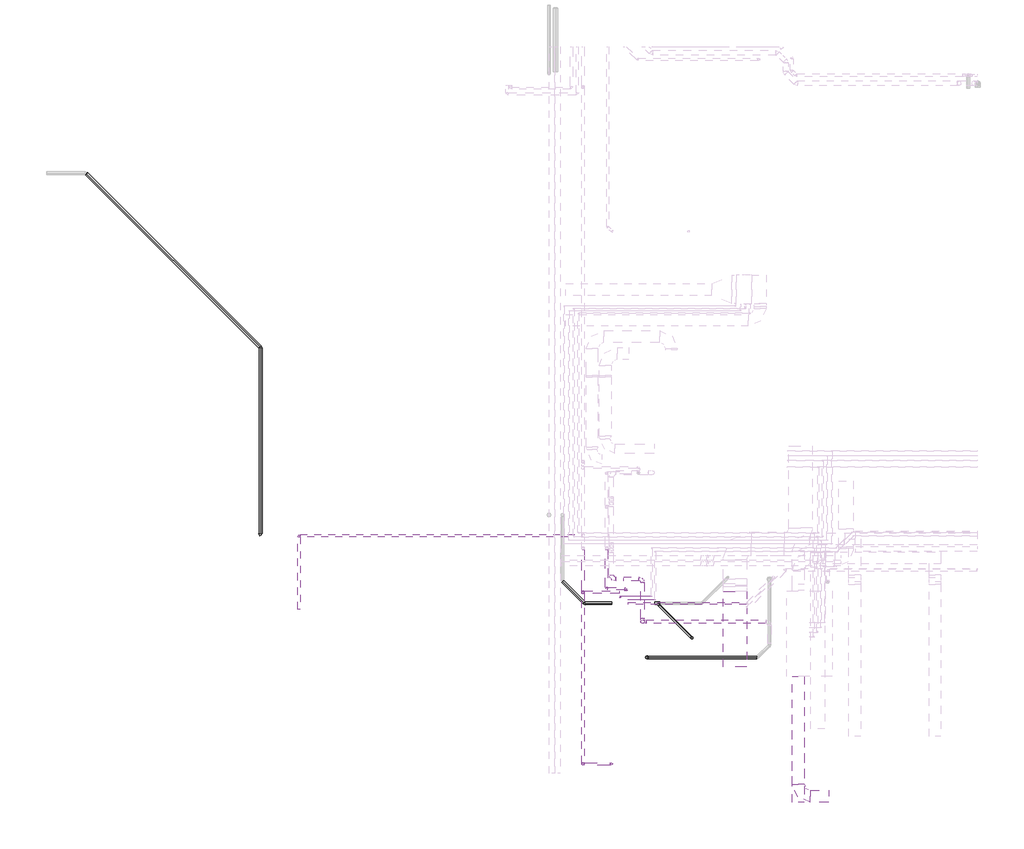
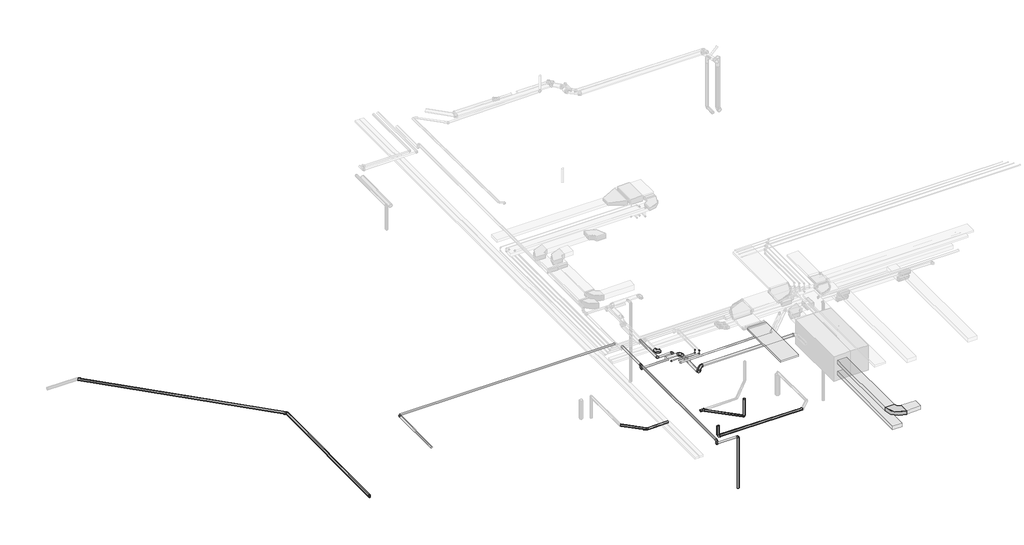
# One storey, part 1 of 10: 26 pipe segments, 19 pipe fittings, 8 duct segments, 5 duct fittings, 1 cable carrier segment.
"""IFC4 building model written with IfcOpenShell, lengths in millimetres."""

from ifc_helpers import new_model, si_unit, point, frame, frame_2d, origin, place, context, project, spatial, polyline, circle_curve, trimmed, segment, composite_curve, outline, extrude, transform, mapped, element, save
from components import m_codo_rectangular_radio_apt_1_w_8ec2a39b, m_codo_redondo_ext_1_d_74319309, m_codo_redondo_ext_1_d_fe658834, pipe_fitting_688cd524, pipe_fitting_67d104e7, pipe_fitting_3454c7e7, pipe_fitting_22462b75, pipe_fitting_87aeffad, pipe_fitting_2d09eb79, pipe_fitting_8d6f82bb, pipe_fitting_37d2b20f, pipe_fitting_c06ac706

model = new_model("IFC4")

# Units and contexts
model_context = context("Model", 3, world=origin())
ifc_project = project(units=[si_unit("LENGTHUNIT", "METRE", prefix="MILLI")], contexts=[model_context])

# Site, building, storey
site = spatial("IfcSite", under=ifc_project)
building = spatial("IfcBuilding", under=site)
storey = spatial("IfcBuildingStorey", under=building, Name="Nivell 00 P00_PB", Elevation=6330.0)

# Cable carrier segment
placement = place(None, origin())
element("IfcCableCarrierSegment", 1, ObjectType="Gasos", at=placement, inside=storey, context=model_context, shape_type="SweptSolid", body=[
    extrude(outline(polyline([(12319.6653746, -20135.8502487), (11319.6653746, -20135.8502487), (11319.6653746, -16967.982283), (12319.6653746, -16967.982283), (12319.6653746, -20135.8502487)])), frame((0.0, 0.0, 10710.0), z_axis=(0.0, 0.0, 1.0), x_axis=(1.0, 0.0, 0.0)), (0.0, 0.0, 1.0), 100.0),
])

# Duct fittings
m_codo_rectangular_radio_apt_1_w_shape = m_codo_rectangular_radio_apt_1_w_8ec2a39b(model_context)
element("IfcDuctFitting", 2, ObjectType="M_Codo rectangular - Radio : EXT_1 W", at=placement, inside=storey, context=model_context, shape_type="MappedRepresentation", body=[
    mapped(m_codo_rectangular_radio_apt_1_w_shape, transform((14473.0832095, -25567.7770846, 9971.4545455), x_axis=(0.0, -1.0, 0.0), y_axis=(1.0, 0.0, 0.0), z_axis=(0.0, 0.0, 1.0))),
])
m_codo_redondo_ext_1_d_shape = m_codo_redondo_ext_1_d_74319309(model_context)
element("IfcDuctFitting", 3, ObjectType="M_Codo redondo : EXT_1 D", at=placement, inside=storey, context=model_context, shape_type="MappedRepresentation", body=[
    mapped(m_codo_redondo_ext_1_d_shape, transform((6627.2855995, -16447.012168, 10742.5), x_axis=(0.0, -1.0, 0.0), y_axis=(1.0, 0.0, 0.0), z_axis=(0.0, 0.0, 1.0))),
])
m_codo_redondo_ext_1_d_2_shape = m_codo_redondo_ext_1_d_fe658834(model_context)
element("IfcDuctFitting", 4, ObjectType="M_Codo redondo : EXT_1 D", at=placement, inside=storey, context=model_context, shape_type="MappedRepresentation", body=[
    mapped(m_codo_redondo_ext_1_d_2_shape, transform((7937.2945854, -16447.012168, 10185.0), x_axis=(0.0, 1.0, 0.0), y_axis=(-1.0, 0.0, 0.0), z_axis=(0.0, 0.0, 1.0))),
])
element("IfcDuctFitting", 5, ObjectType="M_Codo redondo : EXT_1 D", at=placement, inside=storey, context=model_context, shape_type="MappedRepresentation", body=[
    mapped(m_codo_redondo_ext_1_d_2_shape, transform((7937.2945854, -18247.0122124, 10185.0), x_axis=(0.0, -1.0, 0.0), y_axis=(0.0, 0.0, 1.0), z_axis=(-1.0, 0.0, 0.0))),
])
element("IfcDuctFitting", 6, ObjectType="M_Codo redondo : EXT_1 D", at=placement, inside=storey, context=model_context, shape_type="MappedRepresentation", body=[
    mapped(m_codo_redondo_ext_1_d_2_shape, transform((7937.2945854, -18247.0122124, 10535.0), x_axis=(0.0, 0.0, 1.0), y_axis=(0.9999999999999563, 2.95948937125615e-07, 0.0), z_axis=(-2.95948937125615e-07, 0.9999999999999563, 0.0))),
])

# Duct segments
element("IfcDuctSegment", 7, ObjectType="EXT_Acer Galvanitzat - Rígid", at=placement, inside=storey, context=model_context, shape_type="SweptSolid", body=[
    extrude(outline(composite_curve([segment(trimmed(circle_curve(frame_2d((-16447.012168, 10742.5)), 87.5), [point((-16534.512168, 10742.5))], [point((-16447.012168, 10830.0))], False, "CARTESIAN"), True, "CONTINUOUS"), segment(trimmed(circle_curve(frame_2d((-16447.012168, 10742.5)), 87.5), [point((-16447.012168, 10830.0))], [point((-16359.512168, 10742.5))], False, "CARTESIAN"), True, "CONTINUOUS"), segment(trimmed(circle_curve(frame_2d((-16447.012168, 10742.5)), 87.5), [point((-16359.512168, 10742.5))], [point((-16447.012168, 10655.0))], False, "CARTESIAN"), True, "CONTINUOUS"), segment(trimmed(circle_curve(frame_2d((-16447.012168, 10742.5)), 87.5), [point((-16447.012168, 10655.0))], [point((-16534.512168, 10742.5))], False, "CARTESIAN"), True, "CONTINUOUS")], self_intersect=False)), frame((6802.2855995, 0.0, 0.0), z_axis=(1.0, 0.0, 0.0), x_axis=(0.0, 1.0, 0.0)), (0.0, 0.0, 1.0), 14.2559856),
])
element("IfcDuctSegment", 8, ObjectType="EXT_Fibra de vidre rígida", at=placement, inside=storey, context=model_context, shape_type="SweptSolid", body=[
    extrude(outline(polyline([(14973.0832095, -25817.7770846), (14973.0832095, -25317.7770846), (15753.9089403, -25317.7770846), (15753.9089403, -25817.7770846), (14973.0832095, -25817.7770846)])), frame((0.0, 0.0, 9871.4545455), z_axis=(0.0, 0.0, 1.0), x_axis=(1.0, 0.0, 0.0)), (0.0, 0.0, 1.0), 200.0),
])
element("IfcDuctSegment", 9, ObjectType="EXT_Fibra de vidre rígida", at=placement, inside=storey, context=model_context, shape_type="SweptSolid", body=[
    extrude(outline(polyline([(14723.0832095, -25067.7770846), (14223.0832095, -25067.7770846), (14223.0832095, -20547.2682253), (14723.0832095, -20547.2682253), (14723.0832095, -25067.7770846)])), frame((0.0, 0.0, 9871.4545455), z_axis=(0.0, 0.0, 1.0), x_axis=(1.0, 0.0, 0.0)), (0.0, 0.0, 1.0), 200.0),
])
element("IfcDuctSegment", 10, ObjectType="APT_Fibra de vidre rígida", at=placement, inside=storey, context=model_context, shape_type="SweptSolid", body=[
    extrude(outline(polyline([(14223.0832095, -20547.2682253), (14723.0832095, -20547.2682253), (14723.0832095, -25817.7770846), (14223.0832095, -25817.7770846), (14223.0832095, -20547.2682253)])), frame((0.0, 0.0, 9220.5454545), z_axis=(0.0, 0.0, 1.0), x_axis=(1.0, 0.0, 0.0)), (0.0, 0.0, 1.0), 200.0),
])
element("IfcDuctSegment", 11, ObjectType="EXT_Acer Galvanitzat - Rígid", at=placement, inside=storey, context=model_context, shape_type="SweptSolid", body=[
    extrude(outline(composite_curve([segment(trimmed(circle_curve(frame_2d((-16447.012168, 10185.0)), 75.0), [point((-16522.012168, 10185.0))], [point((-16447.012168, 10260.0))], False, "CARTESIAN"), True, "CONTINUOUS"), segment(trimmed(circle_curve(frame_2d((-16447.012168, 10185.0)), 75.0), [point((-16447.012168, 10260.0))], [point((-16372.012168, 10185.0))], False, "CARTESIAN"), True, "CONTINUOUS"), segment(trimmed(circle_curve(frame_2d((-16447.012168, 10185.0)), 75.0), [point((-16372.012168, 10185.0))], [point((-16447.012168, 10110.0))], False, "CARTESIAN"), True, "CONTINUOUS"), segment(trimmed(circle_curve(frame_2d((-16447.012168, 10185.0)), 75.0), [point((-16447.012168, 10110.0))], [point((-16522.012168, 10185.0))], False, "CARTESIAN"), True, "CONTINUOUS")], self_intersect=False)), frame((7137.2945854, 0.0, 0.0), z_axis=(1.0, 0.0, 0.0), x_axis=(0.0, 1.0, 0.0)), (0.0, 0.0, 1.0), 650.0),
])
element("IfcDuctSegment", 12, ObjectType="EXT_Acer Galvanitzat - Rígid", at=placement, inside=storey, context=model_context, shape_type="SweptSolid", body=[
    extrude(outline(composite_curve([segment(trimmed(circle_curve(frame_2d((10185.0, 7937.2945854)), 75.0), [point((10185.0, 7862.2945854))], [point((10110.0, 7937.2945854))], False, "CARTESIAN"), True, "CONTINUOUS"), segment(trimmed(circle_curve(frame_2d((10185.0, 7937.2945854)), 75.0), [point((10110.0, 7937.2945854))], [point((10185.0, 8012.2945854))], False, "CARTESIAN"), True, "CONTINUOUS"), segment(trimmed(circle_curve(frame_2d((10185.0, 7937.2945854)), 75.0), [point((10185.0, 8012.2945854))], [point((10260.0, 7937.2945854))], False, "CARTESIAN"), True, "CONTINUOUS"), segment(trimmed(circle_curve(frame_2d((10185.0, 7937.2945854)), 75.0), [point((10260.0, 7937.2945854))], [point((10185.0, 7862.2945854))], False, "CARTESIAN"), True, "CONTINUOUS")], self_intersect=False)), frame((0.0, -18097.0122124, 0.0), z_axis=(0.0, 1.0, 0.0), x_axis=(0.0, 0.0, 1.0)), (0.0, 0.0, 1.0), 1500.0000444),
])
element("IfcDuctSegment", 13, ObjectType="EXT_Acer Galvanitzat - Rígid", at=placement, inside=storey, context=model_context, shape_type="SweptSolid", body=[
    extrude(outline(composite_curve([segment(trimmed(circle_curve(frame_2d((0.0, 75.0)), 75.0), [point((-75.0, 75.0))], [point((0.0, 150.0))], False, "CARTESIAN"), True, "CONTINUOUS"), segment(trimmed(circle_curve(frame_2d((0.0, 75.0)), 75.0), [point((0.0, 150.0))], [point((75.0, 75.0))], False, "CARTESIAN"), True, "CONTINUOUS"), segment(trimmed(circle_curve(frame_2d((0.0, 75.0)), 75.0), [point((75.0, 75.0))], [point((0.0, 0.0))], False, "CARTESIAN"), True, "CONTINUOUS"), segment(trimmed(circle_curve(frame_2d((0.0, 75.0)), 75.0), [point((0.0, 0.0))], [point((-75.0, 75.0))], False, "CARTESIAN"), True, "CONTINUOUS")], self_intersect=False)), frame((8087.2945854, -18247.012168, 10460.0), z_axis=(0.9999999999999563, 2.9594893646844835e-07, 0.0), x_axis=(-2.9594893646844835e-07, 0.9999999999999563, 0.0)), (0.0, 0.0, 1.0), 5028.6431999),
])
element("IfcDuctSegment", 14, ObjectType="EXT_Acer Galvanitzat - Rígid", at=placement, inside=storey, context=model_context, shape_type="SweptSolid", body=[
    extrude(outline(composite_curve([segment(trimmed(circle_curve(frame_2d((7937.2945854, -18247.0122124)), 75.0), [point((7937.2945854, -18322.0122124))], [point((7862.2945854, -18247.0122124))], False, "CARTESIAN"), True, "CONTINUOUS"), segment(trimmed(circle_curve(frame_2d((7937.2945854, -18247.0122124)), 75.0), [point((7862.2945854, -18247.0122124))], [point((7937.2945854, -18172.0122124))], False, "CARTESIAN"), True, "CONTINUOUS"), segment(trimmed(circle_curve(frame_2d((7937.2945854, -18247.0122124)), 75.0), [point((7937.2945854, -18172.0122124))], [point((8012.2945854, -18247.0122124))], False, "CARTESIAN"), True, "CONTINUOUS"), segment(trimmed(circle_curve(frame_2d((7937.2945854, -18247.0122124)), 75.0), [point((8012.2945854, -18247.0122124))], [point((7937.2945854, -18322.0122124))], False, "CARTESIAN"), True, "CONTINUOUS")], self_intersect=False)), frame((0.0, 0.0, 10335.0), z_axis=(0.0, 0.0, 1.0), x_axis=(1.0, 0.0, 0.0)), (0.0, 0.0, 1.0), 50.0),
])

# Pipe fittings
pipe_fitting_shape = pipe_fitting_688cd524(model_context)
element("IfcPipeFitting", 15, ObjectType="M_Codo - Genérico : Estándar", at=placement, inside=storey, context=model_context, shape_type="MappedRepresentation", body=[
    mapped(pipe_fitting_shape, transform((10013.181755, -18927.6612196, 7316.6831944), x_axis=(0.0, 0.0, -1.0), y_axis=(-0.7071067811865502, 0.7071067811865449, 0.0), z_axis=(0.7071067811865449, 0.7071067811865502, 0.0))),
])
pipe_fitting_2_shape = pipe_fitting_67d104e7(model_context)
element("IfcPipeFitting", 16, ObjectType="M_Codo - Genérico : Estándar", at=placement, inside=storey, context=model_context, shape_type="MappedRepresentation", body=[
    mapped(pipe_fitting_2_shape, transform((5502.7073484, -17471.0592334, 7266.7737556), x_axis=(-0.9999500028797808, 4.171003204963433e-05, -0.009999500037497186), y_axis=(-8.312861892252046e-05, -0.9999914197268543, 0.004141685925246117), z_axis=(-0.009999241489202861, 0.004142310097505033, 0.9999414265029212))),
])
pipe_fitting_3_shape = pipe_fitting_3454c7e7(model_context)
element("IfcPipeFitting", 17, ObjectType="M_Codo - Genérico : Estándar", at=placement, inside=storey, context=model_context, shape_type="MappedRepresentation", body=[
    mapped(pipe_fitting_3_shape, transform((8102.8938836, -19743.951846, 7325.0), x_axis=(-0.9999500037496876, 0.0, 0.009999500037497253), y_axis=(-0.009999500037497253, 0.0, -0.9999500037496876), z_axis=(0.0, -1.0, 0.0))),
])
pipe_fitting_4_shape = pipe_fitting_22462b75(model_context)
element("IfcPipeFitting", 18, ObjectType="M_Te - Genérica : Estándar", at=placement, inside=storey, context=model_context, shape_type="MappedRepresentation", body=[
    mapped(pipe_fitting_4_shape, transform((8553.2787609, -17467.7582255, 7296.0370483), x_axis=(0.9999500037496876, 0.0, 0.009999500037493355), y_axis=(4.141685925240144e-05, 0.999991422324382, -0.004141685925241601), z_axis=(-0.00999941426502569, 0.004141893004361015, 0.9999414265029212))),
])
pipe_fitting_5_shape = pipe_fitting_87aeffad(model_context)
element("IfcPipeFitting", 19, ObjectType="M_Codo - Genérico : Estándar", at=placement, inside=storey, context=model_context, shape_type="MappedRepresentation", body=[
    mapped(pipe_fitting_5_shape, transform((6626.3040659, -24217.4295325, 10519.2), x_axis=(1.0, 0.0, 0.0), y_axis=(0.0, 0.0, -1.0), z_axis=(0.0, 1.0, 0.0))),
])
element("IfcPipeFitting", 20, ObjectType="M_Codo - Genérico : Estándar", at=placement, inside=storey, context=model_context, shape_type="MappedRepresentation", body=[
    mapped(pipe_fitting_5_shape, transform((-6488.4202109, -14623.0018551, 10526.1436888), x_axis=(-1.0, 0.0, 0.0), y_axis=(0.0, -1.0, 0.0), z_axis=(0.0, 0.0, 1.0))),
])
element("IfcPipeFitting", 21, ObjectType="M_Codo - Genérico : Estándar", at=placement, inside=storey, context=model_context, shape_type="MappedRepresentation", body=[
    mapped(pipe_fitting_5_shape, transform((6429.6948456, -16857.399765, 10729.2), x_axis=(0.0, -1.0, 0.0), y_axis=(1.0, 0.0, 0.0), z_axis=(0.0, 0.0, 1.0))),
])
element("IfcPipeFitting", 22, ObjectType="M_Codo - Genérico : Estándar", at=placement, inside=storey, context=model_context, shape_type="MappedRepresentation", body=[
    mapped(pipe_fitting_5_shape, transform((7245.3154675, -16857.399765, 10729.2), x_axis=(0.0, 1.0, 0.0), y_axis=(-1.0, 0.0, 0.0), z_axis=(0.0, 0.0, 1.0))),
])
element("IfcPipeFitting", 23, ObjectType="M_Codo - Genérico : Estándar", at=placement, inside=storey, context=model_context, shape_type="MappedRepresentation", body=[
    mapped(pipe_fitting_5_shape, transform((5436.8741871, -17006.4845942, 10519.2), x_axis=(0.0, 0.0, -1.0), y_axis=(1.0, 0.0, 0.0), z_axis=(0.0, -1.0, 0.0))),
])
element("IfcPipeFitting", 24, ObjectType="M_Codo - Genérico : Estándar", at=placement, inside=storey, context=model_context, shape_type="MappedRepresentation", body=[
    mapped(pipe_fitting_5_shape, transform((5436.8741871, -24217.4295325, 10519.2), x_axis=(-1.0, 0.0, 0.0), y_axis=(0.0, 0.0, 1.0), z_axis=(0.0, 1.0, 0.0))),
])
element("IfcPipeFitting", 25, ObjectType="M_Codo - Genérico : Estándar", at=placement, inside=storey, context=model_context, shape_type="MappedRepresentation", body=[
    mapped(pipe_fitting_5_shape, transform((5436.8741871, -24217.4295325, 10729.2), x_axis=(0.0, 0.0, 1.0), y_axis=(0.0, 1.0, 0.0), z_axis=(-1.0, 0.0, 0.0))),
])
pipe_fitting_6_shape = pipe_fitting_2d09eb79(model_context)
element("IfcPipeFitting", 26, ObjectType="M_Te - Genérica : Estándar", at=placement, inside=storey, context=model_context, shape_type="MappedRepresentation", body=[
    mapped(pipe_fitting_6_shape, transform((5436.8741871, -17006.4845942, 10729.2), x_axis=(0.0, 1.0, 0.0), y_axis=(0.0, 0.0, 1.0), z_axis=(1.0, 0.0, 0.0))),
])
pipe_fitting_7_shape = pipe_fitting_8d6f82bb(model_context)
element("IfcPipeFitting", 27, ObjectType="M_Codo - Genérico : Estándar", at=placement, inside=storey, context=model_context, shape_type="MappedRepresentation", body=[
    mapped(pipe_fitting_7_shape, transform((-8099.3348095, -6724.4089859, 6429.5497962), x_axis=(0.0, 0.9999500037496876, 0.009999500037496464), y_axis=(-0.9999914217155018, -4.141832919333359e-05, 0.00414183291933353), z_axis=(0.004142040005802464, -0.009999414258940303, 0.9999414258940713))),
])
pipe_fitting_8_shape = pipe_fitting_37d2b20f(model_context)
element("IfcPipeFitting", 28, ObjectType="M_Codo - Genérico : Estándar", at=placement, inside=storey, context=model_context, shape_type="MappedRepresentation", body=[
    mapped(pipe_fitting_8_shape, transform((-8099.3348095, -14567.7152259, 6351.1167338), x_axis=(0.0, -0.9999500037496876, -0.00999950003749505), y_axis=(0.9999914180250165, 4.1427237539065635e-05, -0.00414272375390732), z_axis=(0.004142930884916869, -0.00999941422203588, 0.9999414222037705))),
])
pipe_fitting_9_shape = pipe_fitting_c06ac706(model_context)
element("IfcPipeFitting", 29, ObjectType="M_Codo - Genérico : Estándar", at=placement, inside=storey, context=model_context, shape_type="MappedRepresentation", body=[
    mapped(pipe_fitting_9_shape, transform((8320.3801213, -17171.0135325, 10713.15), x_axis=(0.0, -1.0, 0.0), y_axis=(0.0, 0.0, -1.0), z_axis=(1.0, 0.0, 0.0))),
])
element("IfcPipeFitting", 30, ObjectType="M_Codo - Genérico : Estándar", at=placement, inside=storey, context=model_context, shape_type="MappedRepresentation", body=[
    mapped(pipe_fitting_9_shape, transform((8320.3801213, -17171.0135325, 10519.2), x_axis=(0.0, 0.0, -1.0), y_axis=(-1.0, 0.0, 0.0), z_axis=(0.0, 1.0, 0.0))),
])
element("IfcPipeFitting", 31, ObjectType="M_Codo - Genérico : Estándar", at=placement, inside=storey, context=model_context, shape_type="MappedRepresentation", body=[
    mapped(pipe_fitting_9_shape, transform((7000.3801213, -17171.0135325, 10519.2), x_axis=(-1.0, 0.0, 0.0), y_axis=(0.0, -1.0, 0.0), z_axis=(0.0, 0.0, 1.0))),
])
element("IfcPipeFitting", 32, ObjectType="M_Codo - Genérico : Estándar", at=placement, inside=storey, context=model_context, shape_type="MappedRepresentation", body=[
    mapped(pipe_fitting_9_shape, transform((8470.3801213, -17320.0612552, 10713.15), x_axis=(0.0, -1.0, 0.0), y_axis=(0.0, 0.0, -1.0), z_axis=(1.0, 0.0, 0.0))),
])
element("IfcPipeFitting", 33, ObjectType="M_Codo - Genérico : Estándar", at=placement, inside=storey, context=model_context, shape_type="MappedRepresentation", body=[
    mapped(pipe_fitting_9_shape, transform((8470.3801213, -17320.0612552, 10519.2), x_axis=(0.0, 0.0, -1.0), y_axis=(-1.0, 0.0, 0.0), z_axis=(0.0, 1.0, 0.0))),
])

# Pipe segments
element("IfcPipeSegment", 34, ObjectType="PVC_Baixant", at=placement, inside=storey, context=model_context, shape_type="SweptSolid", body=[
    extrude(outline(composite_curve([segment(trimmed(circle_curve(frame_2d((10013.181755, -18927.6612196)), 45.0), [point((10058.181755, -18927.6612196))], [point((10013.181755, -18972.6612196))], False, "CARTESIAN"), True, "CONTINUOUS"), segment(trimmed(circle_curve(frame_2d((10013.181755, -18927.6612196)), 45.0), [point((10013.181755, -18972.6612196))], [point((9968.181755, -18927.6612196))], False, "CARTESIAN"), True, "CONTINUOUS"), segment(trimmed(circle_curve(frame_2d((10013.181755, -18927.6612196)), 45.0), [point((9968.181755, -18927.6612196))], [point((10013.181755, -18882.6612196))], False, "CARTESIAN"), True, "CONTINUOUS"), segment(trimmed(circle_curve(frame_2d((10013.181755, -18927.6612196)), 45.0), [point((10013.181755, -18882.6612196))], [point((10058.181755, -18927.6612196))], False, "CARTESIAN"), True, "CONTINUOUS")], self_intersect=False)), frame((0.0, 0.0, 7368.5494387), z_axis=(0.0, 0.0, 1.0), x_axis=(1.0, 0.0, 0.0)), (0.0, 0.0, 1.0), 961.4505613),
])
element("IfcPipeSegment", 35, ObjectType="AN_CI", at=placement, inside=storey, context=model_context, shape_type="SweptSolid", body=[
    extrude(outline(composite_curve([segment(trimmed(circle_curve(frame_2d((10729.2, 5436.8741871)), 50.8), [point((10729.2, 5487.6741871))], [point((10780.0, 5436.8741871))], False, "CARTESIAN"), True, "CONTINUOUS"), segment(trimmed(circle_curve(frame_2d((10729.2, 5436.8741871)), 50.8), [point((10780.0, 5436.8741871))], [point((10729.2, 5386.0741871))], False, "CARTESIAN"), True, "CONTINUOUS"), segment(trimmed(circle_curve(frame_2d((10729.2, 5436.8741871)), 50.8), [point((10729.2, 5386.0741871))], [point((10678.4, 5436.8741871))], False, "CARTESIAN"), True, "CONTINUOUS"), segment(trimmed(circle_curve(frame_2d((10729.2, 5436.8741871)), 50.8), [point((10678.4, 5436.8741871))], [point((10729.2, 5487.6741871))], False, "CARTESIAN"), True, "CONTINUOUS")], self_intersect=False)), frame((0.0, -24165.0420325, 0.0), z_axis=(0.0, 1.0, 0.0), x_axis=(0.0, 0.0, 1.0)), (0.0, 0.0, 1.0), 7099.8199383),
])
element("IfcPipeSegment", 36, ObjectType="AN_CI", at=placement, inside=storey, context=model_context, shape_type="SweptSolid", body=[
    extrude(outline(composite_curve([segment(trimmed(circle_curve(frame_2d((-24217.4295325, 10519.2)), 50.8), [point((-24268.2295325, 10519.2))], [point((-24217.4295325, 10570.0))], False, "CARTESIAN"), True, "CONTINUOUS"), segment(trimmed(circle_curve(frame_2d((-24217.4295325, 10519.2)), 50.8), [point((-24217.4295325, 10570.0))], [point((-24166.6295325, 10519.2))], False, "CARTESIAN"), True, "CONTINUOUS"), segment(trimmed(circle_curve(frame_2d((-24217.4295325, 10519.2)), 50.8), [point((-24166.6295325, 10519.2))], [point((-24217.4295325, 10468.4))], False, "CARTESIAN"), True, "CONTINUOUS"), segment(trimmed(circle_curve(frame_2d((-24217.4295325, 10519.2)), 50.8), [point((-24217.4295325, 10468.4))], [point((-24268.2295325, 10519.2))], False, "CARTESIAN"), True, "CONTINUOUS")], self_intersect=False)), frame((5489.2616871, 0.0, 0.0), z_axis=(1.0, 0.0, 0.0), x_axis=(0.0, 1.0, 0.0)), (0.0, 0.0, 1.0), 1084.6548788),
])
element("IfcPipeSegment", 37, ObjectType="AN_CI", at=placement, inside=storey, context=model_context, shape_type="SweptSolid", body=[
    extrude(outline(composite_curve([segment(trimmed(circle_curve(frame_2d((6626.3040659, -24217.4295325)), 50.8), [point((6575.5040659, -24217.4295325))], [point((6626.3040659, -24166.6295325))], False, "CARTESIAN"), True, "CONTINUOUS"), segment(trimmed(circle_curve(frame_2d((6626.3040659, -24217.4295325)), 50.8), [point((6626.3040659, -24166.6295325))], [point((6677.1040659, -24217.4295325))], False, "CARTESIAN"), True, "CONTINUOUS"), segment(trimmed(circle_curve(frame_2d((6626.3040659, -24217.4295325)), 50.8), [point((6677.1040659, -24217.4295325))], [point((6626.3040659, -24268.2295325))], False, "CARTESIAN"), True, "CONTINUOUS"), segment(trimmed(circle_curve(frame_2d((6626.3040659, -24217.4295325)), 50.8), [point((6626.3040659, -24268.2295325))], [point((6575.5040659, -24217.4295325))], False, "CARTESIAN"), True, "CONTINUOUS")], self_intersect=False)), frame((0.0, 0.0, 7530.0), z_axis=(0.0, 0.0, 1.0), x_axis=(1.0, 0.0, 0.0)), (0.0, 0.0, 1.0), 2936.8125),
])
element("IfcPipeSegment", 38, ObjectType="AN_CI", at=placement, inside=storey, context=model_context, shape_type="SweptSolid", body=[
    extrude(outline(composite_curve([segment(trimmed(circle_curve(frame_2d((10526.1436888, -6488.4202109)), 50.8), [point((10526.1436888, -6437.6202109))], [point((10576.9436888, -6488.4202109))], False, "CARTESIAN"), True, "CONTINUOUS"), segment(trimmed(circle_curve(frame_2d((10526.1436888, -6488.4202109)), 50.8), [point((10576.9436888, -6488.4202109))], [point((10526.1436888, -6539.2202109))], False, "CARTESIAN"), True, "CONTINUOUS"), segment(trimmed(circle_curve(frame_2d((10526.1436888, -6488.4202109)), 50.8), [point((10526.1436888, -6539.2202109))], [point((10475.3436888, -6488.4202109))], False, "CARTESIAN"), True, "CONTINUOUS"), segment(trimmed(circle_curve(frame_2d((10526.1436888, -6488.4202109)), 50.8), [point((10475.3436888, -6488.4202109))], [point((10526.1436888, -6437.6202109))], False, "CARTESIAN"), True, "CONTINUOUS")], self_intersect=False)), frame((0.0, -17723.0019055, 0.0), z_axis=(0.0, 1.0, 0.0), x_axis=(0.0, 0.0, 1.0)), (0.0, 0.0, 1.0), 3047.6125504),
])
element("IfcPipeSegment", 39, ObjectType="AN_CI", at=placement, inside=storey, context=model_context, shape_type="SweptSolid", body=[
    extrude(outline(composite_curve([segment(trimmed(circle_curve(frame_2d((-14623.0018551, 10526.1436888)), 50.8), [point((-14572.2018551, 10526.1436888))], [point((-14623.0018551, 10475.3436888))], False, "CARTESIAN"), True, "CONTINUOUS"), segment(trimmed(circle_curve(frame_2d((-14623.0018551, 10526.1436888)), 50.8), [point((-14623.0018551, 10475.3436888))], [point((-14673.8018551, 10526.1436888))], False, "CARTESIAN"), True, "CONTINUOUS"), segment(trimmed(circle_curve(frame_2d((-14623.0018551, 10526.1436888)), 50.8), [point((-14673.8018551, 10526.1436888))], [point((-14623.0018551, 10576.9436888))], False, "CARTESIAN"), True, "CONTINUOUS"), segment(trimmed(circle_curve(frame_2d((-14623.0018551, 10526.1436888)), 50.8), [point((-14623.0018551, 10576.9436888))], [point((-14572.2018551, 10526.1436888))], False, "CARTESIAN"), True, "CONTINUOUS")], self_intersect=False)), frame((-6436.0327109, 0.0, 0.0), z_axis=(1.0, 0.0, 0.0), x_axis=(0.0, 1.0, 0.0)), (0.0, 0.0, 1.0), 11814.16399),
])
element("IfcPipeSegment", 40, ObjectType="AN_CI", at=placement, inside=storey, context=model_context, shape_type="SweptSolid", body=[
    extrude(outline(composite_curve([segment(trimmed(circle_curve(frame_2d((-17006.4845942, 10519.2)), 50.8), [point((-17057.2845942, 10519.2))], [point((-17006.4845942, 10570.0))], False, "CARTESIAN"), True, "CONTINUOUS"), segment(trimmed(circle_curve(frame_2d((-17006.4845942, 10519.2)), 50.8), [point((-17006.4845942, 10570.0))], [point((-16955.6845942, 10519.2))], False, "CARTESIAN"), True, "CONTINUOUS"), segment(trimmed(circle_curve(frame_2d((-17006.4845942, 10519.2)), 50.8), [point((-16955.6845942, 10519.2))], [point((-17006.4845942, 10468.4))], False, "CARTESIAN"), True, "CONTINUOUS"), segment(trimmed(circle_curve(frame_2d((-17006.4845942, 10519.2)), 50.8), [point((-17006.4845942, 10468.4))], [point((-17057.2845942, 10519.2))], False, "CARTESIAN"), True, "CONTINUOUS")], self_intersect=False)), frame((5489.2616871, 0.0, 0.0), z_axis=(1.0, 0.0, 0.0), x_axis=(0.0, 1.0, 0.0)), (0.0, 0.0, 1.0), 1459.5952026),
])
element("IfcPipeSegment", 41, ObjectType="AN_CI", at=placement, inside=storey, context=model_context, shape_type="SweptSolid", body=[
    extrude(outline(composite_curve([segment(trimmed(circle_curve(frame_2d((10729.2, 6429.6948456)), 50.8), [point((10729.2, 6378.8948456))], [point((10678.4, 6429.6948456))], False, "CARTESIAN"), True, "CONTINUOUS"), segment(trimmed(circle_curve(frame_2d((10729.2, 6429.6948456)), 50.8), [point((10678.4, 6429.6948456))], [point((10729.2, 6480.4948456))], False, "CARTESIAN"), True, "CONTINUOUS"), segment(trimmed(circle_curve(frame_2d((10729.2, 6429.6948456)), 50.8), [point((10729.2, 6480.4948456))], [point((10780.0, 6429.6948456))], False, "CARTESIAN"), True, "CONTINUOUS"), segment(trimmed(circle_curve(frame_2d((10729.2, 6429.6948456)), 50.8), [point((10780.0, 6429.6948456))], [point((10729.2, 6378.8948456))], False, "CARTESIAN"), True, "CONTINUOUS")], self_intersect=False)), frame((0.0, -16805.012265, 0.0), z_axis=(0.0, 1.0, 0.0), x_axis=(0.0, 0.0, 1.0)), (0.0, 0.0, 1.0), 1595.9728595),
])
element("IfcPipeSegment", 42, ObjectType="AN_CI", at=placement, inside=storey, context=model_context, shape_type="SweptSolid", body=[
    extrude(outline(composite_curve([segment(trimmed(circle_curve(frame_2d((-16857.399765, 10729.2)), 50.8), [point((-16908.199765, 10729.2))], [point((-16857.399765, 10780.0))], False, "CARTESIAN"), True, "CONTINUOUS"), segment(trimmed(circle_curve(frame_2d((-16857.399765, 10729.2)), 50.8), [point((-16857.399765, 10780.0))], [point((-16806.599765, 10729.2))], False, "CARTESIAN"), True, "CONTINUOUS"), segment(trimmed(circle_curve(frame_2d((-16857.399765, 10729.2)), 50.8), [point((-16806.599765, 10729.2))], [point((-16857.399765, 10678.4))], False, "CARTESIAN"), True, "CONTINUOUS"), segment(trimmed(circle_curve(frame_2d((-16857.399765, 10729.2)), 50.8), [point((-16857.399765, 10678.4))], [point((-16908.199765, 10729.2))], False, "CARTESIAN"), True, "CONTINUOUS")], self_intersect=False)), frame((6482.0823456, 0.0, 0.0), z_axis=(1.0, 0.0, 0.0), x_axis=(0.0, 1.0, 0.0)), (0.0, 0.0, 1.0), 710.8456219),
])
element("IfcPipeSegment", 43, ObjectType="AN_CI", at=placement, inside=storey, context=model_context, shape_type="SweptSolid", body=[
    extrude(outline(composite_curve([segment(trimmed(circle_curve(frame_2d((10729.2, 7245.3154675)), 50.8), [point((10729.2, 7194.5154675))], [point((10678.4, 7245.3154675))], False, "CARTESIAN"), True, "CONTINUOUS"), segment(trimmed(circle_curve(frame_2d((10729.2, 7245.3154675)), 50.8), [point((10678.4, 7245.3154675))], [point((10729.2, 7296.1154675))], False, "CARTESIAN"), True, "CONTINUOUS"), segment(trimmed(circle_curve(frame_2d((10729.2, 7245.3154675)), 50.8), [point((10729.2, 7296.1154675))], [point((10780.0, 7245.3154675))], False, "CARTESIAN"), True, "CONTINUOUS"), segment(trimmed(circle_curve(frame_2d((10729.2, 7245.3154675)), 50.8), [point((10780.0, 7245.3154675))], [point((10729.2, 7194.5154675))], False, "CARTESIAN"), True, "CONTINUOUS")], self_intersect=False)), frame((0.0, -16947.399765, 0.0), z_axis=(0.0, 1.0, 0.0), x_axis=(0.0, 0.0, 1.0)), (0.0, 0.0, 1.0), 37.6125),
])
element("IfcPipeSegment", 44, ObjectType="PVC_Baixant", at=placement, inside=storey, context=model_context, shape_type="SweptSolid", body=[
    extrude(outline(composite_curve([segment(trimmed(circle_curve(frame_2d((0.0, -45.0)), 45.0), [point((0.0, 0.0))], [point((44.9999999, -45.0))], False, "CARTESIAN"), True, "CONTINUOUS"), segment(trimmed(circle_curve(frame_2d((0.0, -45.0)), 45.0), [point((44.9999999, -45.0))], [point((0.0, -90.0))], False, "CARTESIAN"), True, "CONTINUOUS"), segment(trimmed(circle_curve(frame_2d((0.0, -45.0)), 45.0), [point((0.0, -90.0))], [point((-45.0, -45.0))], False, "CARTESIAN"), True, "CONTINUOUS"), segment(trimmed(circle_curve(frame_2d((0.0, -45.0)), 45.0), [point((-45.0, -45.0))], [point((0.0, 0.0))], False, "CARTESIAN"), True, "CONTINUOUS")], self_intersect=False)), frame((7340.3808169, -17425.9564218, 10478.6467164), z_axis=(0.9999500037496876, 0.0, 0.009999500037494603), x_axis=(0.009999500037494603, 0.0, -0.9999500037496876)), (0.0, 0.0, 1.0), 4969.6093341),
])
element("IfcPipeSegment", 45, ObjectType="AN_CI", at=placement, inside=storey, context=model_context, shape_type="SweptSolid", body=[
    extrude(outline(composite_curve([segment(trimmed(circle_curve(frame_2d((5436.8741871, -17006.4845942)), 50.8), [point((5487.6741871, -17006.4845942))], [point((5436.8741871, -17057.2845942))], False, "CARTESIAN"), True, "CONTINUOUS"), segment(trimmed(circle_curve(frame_2d((5436.8741871, -17006.4845942)), 50.8), [point((5436.8741871, -17057.2845942))], [point((5386.0741871, -17006.4845942))], False, "CARTESIAN"), True, "CONTINUOUS"), segment(trimmed(circle_curve(frame_2d((5436.8741871, -17006.4845942)), 50.8), [point((5386.0741871, -17006.4845942))], [point((5436.8741871, -16955.6845942))], False, "CARTESIAN"), True, "CONTINUOUS"), segment(trimmed(circle_curve(frame_2d((5436.8741871, -17006.4845942)), 50.8), [point((5436.8741871, -16955.6845942))], [point((5487.6741871, -17006.4845942))], False, "CARTESIAN"), True, "CONTINUOUS")], self_intersect=False)), frame((0.0, 0.0, 10571.5875), z_axis=(0.0, 0.0, 1.0), x_axis=(1.0, 0.0, 0.0)), (0.0, 0.0, 1.0), 98.875),
])
element("IfcPipeSegment", 46, ObjectType="AN_CI", at=placement, inside=storey, context=model_context, shape_type="SweptSolid", body=[
    extrude(outline(composite_curve([segment(trimmed(circle_curve(frame_2d((10729.2, 5436.8741871)), 50.8), [point((10729.2, 5386.0741871))], [point((10678.4, 5436.8741871))], False, "CARTESIAN"), True, "CONTINUOUS"), segment(trimmed(circle_curve(frame_2d((10729.2, 5436.8741871)), 50.8), [point((10678.4, 5436.8741871))], [point((10729.2, 5487.6741871))], False, "CARTESIAN"), True, "CONTINUOUS"), segment(trimmed(circle_curve(frame_2d((10729.2, 5436.8741871)), 50.8), [point((10729.2, 5487.6741871))], [point((10780.0, 5436.8741871))], False, "CARTESIAN"), True, "CONTINUOUS"), segment(trimmed(circle_curve(frame_2d((10729.2, 5436.8741871)), 50.8), [point((10780.0, 5436.8741871))], [point((10729.2, 5386.0741871))], False, "CARTESIAN"), True, "CONTINUOUS")], self_intersect=False)), frame((0.0, -16947.7470942, 0.0), z_axis=(0.0, 1.0, 0.0), x_axis=(0.0, 0.0, 1.0)), (0.0, 0.0, 1.0), 1730.6014891),
])
element("IfcPipeSegment", 47, ObjectType="AN_CI", at=placement, inside=storey, context=model_context, shape_type="SweptSolid", body=[
    extrude(outline(composite_curve([segment(trimmed(circle_curve(frame_2d((5436.8741871, -24217.4295325)), 50.8), [point((5386.0741871, -24217.4295325))], [point((5436.8741871, -24166.6295325))], False, "CARTESIAN"), True, "CONTINUOUS"), segment(trimmed(circle_curve(frame_2d((5436.8741871, -24217.4295325)), 50.8), [point((5436.8741871, -24166.6295325))], [point((5487.6741871, -24217.4295325))], False, "CARTESIAN"), True, "CONTINUOUS"), segment(trimmed(circle_curve(frame_2d((5436.8741871, -24217.4295325)), 50.8), [point((5487.6741871, -24217.4295325))], [point((5436.8741871, -24268.2295325))], False, "CARTESIAN"), True, "CONTINUOUS"), segment(trimmed(circle_curve(frame_2d((5436.8741871, -24217.4295325)), 50.8), [point((5436.8741871, -24268.2295325))], [point((5386.0741871, -24217.4295325))], False, "CARTESIAN"), True, "CONTINUOUS")], self_intersect=False)), frame((0.0, 0.0, 10571.5875), z_axis=(0.0, 0.0, 1.0), x_axis=(1.0, 0.0, 0.0)), (0.0, 0.0, 1.0), 105.225),
])
element("IfcPipeSegment", 48, ObjectType="AN_CI", at=placement, inside=storey, context=model_context, shape_type="SweptSolid", body=[
    extrude(outline(composite_curve([segment(trimmed(circle_curve(frame_2d((10519.2, 7000.3801213)), 16.85), [point((10519.2, 7017.2301213))], [point((10536.05, 7000.3801213))], False, "CARTESIAN"), True, "CONTINUOUS"), segment(trimmed(circle_curve(frame_2d((10519.2, 7000.3801213)), 16.85), [point((10536.05, 7000.3801213))], [point((10519.2, 6983.5301213))], False, "CARTESIAN"), True, "CONTINUOUS"), segment(trimmed(circle_curve(frame_2d((10519.2, 7000.3801213)), 16.85), [point((10519.2, 6983.5301213))], [point((10502.35, 7000.3801213))], False, "CARTESIAN"), True, "CONTINUOUS"), segment(trimmed(circle_curve(frame_2d((10519.2, 7000.3801213)), 16.85), [point((10502.35, 7000.3801213))], [point((10519.2, 7017.2301213))], False, "CARTESIAN"), True, "CONTINUOUS")], self_intersect=False)), frame((0.0, -17251.0135325, 0.0), z_axis=(0.0, 1.0, 0.0), x_axis=(0.0, 0.0, 1.0)), (0.0, 0.0, 1.0), 59.3625),
])
element("IfcPipeSegment", 49, ObjectType="AN_CI", at=placement, inside=storey, context=model_context, shape_type="SweptSolid", body=[
    extrude(outline(composite_curve([segment(trimmed(circle_curve(frame_2d((-17171.0135325, 10519.2)), 16.85), [point((-17154.1635325, 10519.2))], [point((-17171.0135325, 10502.35))], False, "CARTESIAN"), True, "CONTINUOUS"), segment(trimmed(circle_curve(frame_2d((-17171.0135325, 10519.2)), 16.85), [point((-17171.0135325, 10502.35))], [point((-17187.8635325, 10519.2))], False, "CARTESIAN"), True, "CONTINUOUS"), segment(trimmed(circle_curve(frame_2d((-17171.0135325, 10519.2)), 16.85), [point((-17187.8635325, 10519.2))], [point((-17171.0135325, 10536.05))], False, "CARTESIAN"), True, "CONTINUOUS"), segment(trimmed(circle_curve(frame_2d((-17171.0135325, 10519.2)), 16.85), [point((-17171.0135325, 10536.05))], [point((-17154.1635325, 10519.2))], False, "CARTESIAN"), True, "CONTINUOUS")], self_intersect=False)), frame((7021.0176213, 0.0, 0.0), z_axis=(1.0, 0.0, 0.0), x_axis=(0.0, 1.0, 0.0)), (0.0, 0.0, 1.0), 1278.725),
])
element("IfcPipeSegment", 50, ObjectType="AN_CI", at=placement, inside=storey, context=model_context, shape_type="SweptSolid", body=[
    extrude(outline(composite_curve([segment(trimmed(circle_curve(frame_2d((-17320.0612552, 10519.2)), 16.85), [point((-17303.2112552, 10519.2))], [point((-17320.0612552, 10502.35))], False, "CARTESIAN"), True, "CONTINUOUS"), segment(trimmed(circle_curve(frame_2d((-17320.0612552, 10519.2)), 16.85), [point((-17320.0612552, 10502.35))], [point((-17336.9112552, 10519.2))], False, "CARTESIAN"), True, "CONTINUOUS"), segment(trimmed(circle_curve(frame_2d((-17320.0612552, 10519.2)), 16.85), [point((-17336.9112552, 10519.2))], [point((-17320.0612552, 10536.05))], False, "CARTESIAN"), True, "CONTINUOUS"), segment(trimmed(circle_curve(frame_2d((-17320.0612552, 10519.2)), 16.85), [point((-17320.0612552, 10536.05))], [point((-17303.2112552, 10519.2))], False, "CARTESIAN"), True, "CONTINUOUS")], self_intersect=False)), frame((7340.3808169, 0.0, 0.0), z_axis=(1.0, 0.0, 0.0), x_axis=(0.0, 1.0, 0.0)), (0.0, 0.0, 1.0), 1109.3618044),
])
element("IfcPipeSegment", 51, ObjectType="AN_CI", at=placement, inside=storey, context=model_context, shape_type="SweptSolid", body=[
    extrude(outline(composite_curve([segment(trimmed(circle_curve(frame_2d((8320.3801213, -17171.0135325)), 16.85), [point((8337.2301213, -17171.0135325))], [point((8320.3801213, -17187.8635325))], False, "CARTESIAN"), True, "CONTINUOUS"), segment(trimmed(circle_curve(frame_2d((8320.3801213, -17171.0135325)), 16.85), [point((8320.3801213, -17187.8635325))], [point((8303.5301213, -17171.0135325))], False, "CARTESIAN"), True, "CONTINUOUS"), segment(trimmed(circle_curve(frame_2d((8320.3801213, -17171.0135325)), 16.85), [point((8303.5301213, -17171.0135325))], [point((8320.3801213, -17154.1635325))], False, "CARTESIAN"), True, "CONTINUOUS"), segment(trimmed(circle_curve(frame_2d((8320.3801213, -17171.0135325)), 16.85), [point((8320.3801213, -17154.1635325))], [point((8337.2301213, -17171.0135325))], False, "CARTESIAN"), True, "CONTINUOUS")], self_intersect=False)), frame((0.0, 0.0, 10539.8375), z_axis=(0.0, 0.0, 1.0), x_axis=(1.0, 0.0, 0.0)), (0.0, 0.0, 1.0), 152.675),
])
element("IfcPipeSegment", 52, ObjectType="AN_CI", at=placement, inside=storey, context=model_context, shape_type="SweptSolid", body=[
    extrude(outline(composite_curve([segment(trimmed(circle_curve(frame_2d((8470.3801213, -17320.0612552)), 16.85), [point((8487.2301213, -17320.0612552))], [point((8470.3801213, -17336.9112552))], False, "CARTESIAN"), True, "CONTINUOUS"), segment(trimmed(circle_curve(frame_2d((8470.3801213, -17320.0612552)), 16.85), [point((8470.3801213, -17336.9112552))], [point((8453.5301213, -17320.0612552))], False, "CARTESIAN"), True, "CONTINUOUS"), segment(trimmed(circle_curve(frame_2d((8470.3801213, -17320.0612552)), 16.85), [point((8453.5301213, -17320.0612552))], [point((8470.3801213, -17303.2112552))], False, "CARTESIAN"), True, "CONTINUOUS"), segment(trimmed(circle_curve(frame_2d((8470.3801213, -17320.0612552)), 16.85), [point((8470.3801213, -17303.2112552))], [point((8487.2301213, -17320.0612552))], False, "CARTESIAN"), True, "CONTINUOUS")], self_intersect=False)), frame((0.0, 0.0, 10539.8375), z_axis=(0.0, 0.0, 1.0), x_axis=(1.0, 0.0, 0.0)), (0.0, 0.0, 1.0), 152.675),
])
element("IfcPipeSegment", 53, ObjectType="PVC_Baixant", at=placement, inside=storey, context=model_context, shape_type="SweptSolid", body=[
    extrude(outline(composite_curve([segment(trimmed(circle_curve(frame_2d((0.0, 55.0)), 55.0), [point((-54.9972509, 54.4501009))], [point((-0.5498991, 109.9972509))], False, "CARTESIAN"), True, "CONTINUOUS"), segment(trimmed(circle_curve(frame_2d((0.0, 55.0)), 55.0), [point((-0.5498991, 109.9972509))], [point((54.9972509, 55.5498992))], False, "CARTESIAN"), True, "CONTINUOUS"), segment(trimmed(circle_curve(frame_2d((0.0, 55.0)), 55.0), [point((54.9972509, 55.5498992))], [point((0.5498991, 0.0027491))], False, "CARTESIAN"), True, "CONTINUOUS"), segment(trimmed(circle_curve(frame_2d((0.0, 55.0)), 55.0), [point((0.5498991, 0.0027491))], [point((-54.9972509, 54.4501009))], False, "CARTESIAN"), True, "CONTINUOUS")], self_intersect=False)), frame((4587.0424259, -16556.0956263, 7198.8292566), z_axis=(0.707041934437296, -0.7071009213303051, 0.009999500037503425), x_axis=(0.7071716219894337, 0.7069712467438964, -0.009997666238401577)), (0.0, 0.0, 1.0), 1268.9964795),
])
element("IfcPipeSegment", 54, ObjectType="PVC_Baixant", at=placement, inside=storey, context=model_context, shape_type="SweptSolid", body=[
    extrude(outline(composite_curve([segment(trimmed(circle_curve(frame_2d((0.0, 55.0)), 55.0), [point((0.0, 0.0))], [point((-55.0, 55.0))], False, "CARTESIAN"), True, "CONTINUOUS"), segment(trimmed(circle_curve(frame_2d((0.0, 55.0)), 55.0), [point((-55.0, 55.0))], [point((0.0, 110.0))], False, "CARTESIAN"), True, "CONTINUOUS"), segment(trimmed(circle_curve(frame_2d((0.0, 55.0)), 55.0), [point((0.0, 110.0))], [point((55.0, 55.0))], False, "CARTESIAN"), True, "CONTINUOUS"), segment(trimmed(circle_curve(frame_2d((0.0, 55.0)), 55.0), [point((55.0, 55.0))], [point((0.0, 0.0))], False, "CARTESIAN"), True, "CONTINUOUS")], self_intersect=False)), frame((5528.7740842, -17526.0603207, 7267.034423), z_axis=(0.9999500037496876, 0.0, 0.009999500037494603), x_axis=(0.009999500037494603, 0.0, -0.9999500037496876)), (0.0, 0.0, 1.0), 1113.9246831),
])
element("IfcPipeSegment", 55, ObjectType="PVC_Baixant", at=placement, inside=storey, context=model_context, shape_type="SweptSolid", body=[
    extrude(outline(composite_curve([segment(trimmed(circle_curve(frame_2d((0.0, -45.0)), 45.0), [point((44.9977504, -44.550045))], [point((0.4499551, -89.9977504))], False, "CARTESIAN"), True, "CONTINUOUS"), segment(trimmed(circle_curve(frame_2d((0.0, -45.0)), 45.0), [point((0.4499551, -89.9977504))], [point((-44.9977503, -45.449955))], False, "CARTESIAN"), True, "CONTINUOUS"), segment(trimmed(circle_curve(frame_2d((0.0, -45.0)), 45.0), [point((-44.9977503, -45.449955))], [point((-0.449955, -0.0022496))], False, "CARTESIAN"), True, "CONTINUOUS"), segment(trimmed(circle_curve(frame_2d((0.0, -45.0)), 45.0), [point((-0.449955, -0.0022496))], [point((44.9977504, -44.550045))], False, "CARTESIAN"), True, "CONTINUOUS")], self_intersect=False)), frame((8631.8703634, -17545.7134956, 7342.1440021), z_axis=(0.7070714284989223, -0.7070714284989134, 0.009999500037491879), x_axis=(0.7071421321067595, 0.7070007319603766, -0.009998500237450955)), (0.0, 0.0, 1.0), 1901.7007305),
])
element("IfcPipeSegment", 56, ObjectType="PVC_Baixant", at=placement, inside=storey, context=model_context, shape_type="SweptSolid", body=[
    extrude(outline(composite_curve([segment(trimmed(circle_curve(frame_2d((0.0, -55.0)), 55.0), [point((0.0, -110.0))], [point((-55.0, -55.0))], False, "CARTESIAN"), True, "CONTINUOUS"), segment(trimmed(circle_curve(frame_2d((0.0, -55.0)), 55.0), [point((-55.0, -55.0))], [point((0.0, 0.0))], False, "CARTESIAN"), True, "CONTINUOUS"), segment(trimmed(circle_curve(frame_2d((0.0, -55.0)), 55.0), [point((0.0, 0.0))], [point((55.0, -55.0))], False, "CARTESIAN"), True, "CONTINUOUS"), segment(trimmed(circle_curve(frame_2d((0.0, -55.0)), 55.0), [point((55.0, -55.0))], [point((0.0, -110.0))], False, "CARTESIAN"), True, "CONTINUOUS")], self_intersect=False)), frame((12731.8665446, -19688.951846, 7278.7102734), z_axis=(-0.9999500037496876, 0.0, 0.009999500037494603), x_axis=(0.009999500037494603, 0.0, 0.9999500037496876)), (0.0, 0.0, 1.0), 4566.892832),
])
element("IfcPipeSegment", 57, ObjectType="PVC_Baixant", at=placement, inside=storey, context=model_context, shape_type="SweptSolid", body=[
    extrude(outline(composite_curve([segment(trimmed(circle_curve(frame_2d((8102.8938836, -19743.951846)), 55.0), [point((8047.8938836, -19743.951846))], [point((8102.8938836, -19688.951846))], False, "CARTESIAN"), True, "CONTINUOUS"), segment(trimmed(circle_curve(frame_2d((8102.8938836, -19743.951846)), 55.0), [point((8102.8938836, -19688.951846))], [point((8157.8938836, -19743.951846))], False, "CARTESIAN"), True, "CONTINUOUS"), segment(trimmed(circle_curve(frame_2d((8102.8938836, -19743.951846)), 55.0), [point((8157.8938836, -19743.951846))], [point((8102.8938836, -19798.951846))], False, "CARTESIAN"), True, "CONTINUOUS"), segment(trimmed(circle_curve(frame_2d((8102.8938836, -19743.951846)), 55.0), [point((8102.8938836, -19798.951846))], [point((8047.8938836, -19743.951846))], False, "CARTESIAN"), True, "CONTINUOUS")], self_intersect=False)), frame((0.0, 0.0, 7387.3112718), z_axis=(0.0, 0.0, 1.0), x_axis=(1.0, 0.0, 0.0)), (0.0, 0.0, 1.0), 529.9887282),
])
element("IfcPipeSegment", 58, ObjectType="PVC_Baixant", at=placement, inside=storey, context=model_context, shape_type="SweptSolid", body=[
    extrude(outline(composite_curve([segment(trimmed(circle_curve(frame_2d((1e-07, -62.5)), 62.5), [point((-62.4968752, -63.1249689))], [point((-0.6249688, -0.0031248))], False, "CARTESIAN"), True, "CONTINUOUS"), segment(trimmed(circle_curve(frame_2d((1e-07, -62.5)), 62.5), [point((-0.6249688, -0.0031248))], [point((62.4968753, -61.8750311))], False, "CARTESIAN"), True, "CONTINUOUS"), segment(trimmed(circle_curve(frame_2d((1e-07, -62.5)), 62.5), [point((62.4968753, -61.8750311))], [point((0.6249689, -124.9968753))], False, "CARTESIAN"), True, "CONTINUOUS"), segment(trimmed(circle_curve(frame_2d((1e-07, -62.5)), 62.5), [point((0.6249689, -124.9968753))], [point((-62.4968752, -63.1249689))], False, "CARTESIAN"), True, "CONTINUOUS")], self_intersect=False)), frame((-8120.2573649, -6702.6036635, 6367.3519278), z_axis=(-0.7070891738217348, 0.7070536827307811, 0.009999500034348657), x_axis=(0.707124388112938, 0.7070184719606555, 0.009999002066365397)), (0.0, 0.0, 1.0), 10302.5143433),
])
element("IfcPipeSegment", 59, ObjectType="PVC_Baixant", at=placement, inside=storey, context=model_context, shape_type="SweptSolid", body=[
    extrude(outline(composite_curve([segment(trimmed(circle_curve(frame_2d((0.0, -62.5)), 62.5), [point((-62.5, -62.5))], [point((0.0, 0.0))], False, "CARTESIAN"), True, "CONTINUOUS"), segment(trimmed(circle_curve(frame_2d((0.0, -62.5)), 62.5), [point((0.0, 0.0))], [point((62.5, -62.5))], False, "CARTESIAN"), True, "CONTINUOUS"), segment(trimmed(circle_curve(frame_2d((0.0, -62.5)), 62.5), [point((62.5, -62.5))], [point((0.0, -124.9999999))], False, "CARTESIAN"), True, "CONTINUOUS"), segment(trimmed(circle_curve(frame_2d((0.0, -62.5)), 62.5), [point((0.0, -124.9999999))], [point((-62.5, -62.5))], False, "CARTESIAN"), True, "CONTINUOUS")], self_intersect=False)), frame((-8099.3348095, -14537.4956728, 6288.9158045), z_axis=(0.0, 0.9999500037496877, 0.009999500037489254), x_axis=(1.0, 0.0, 0.0)), (0.0, 0.0, 1.0), 7784.5126331),
])

save(model, "model.ifc")
